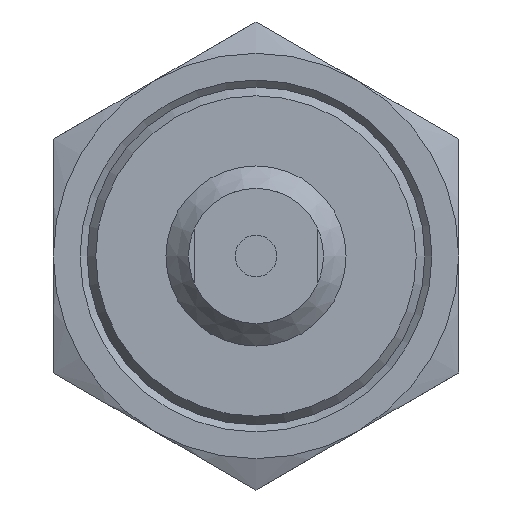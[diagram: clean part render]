
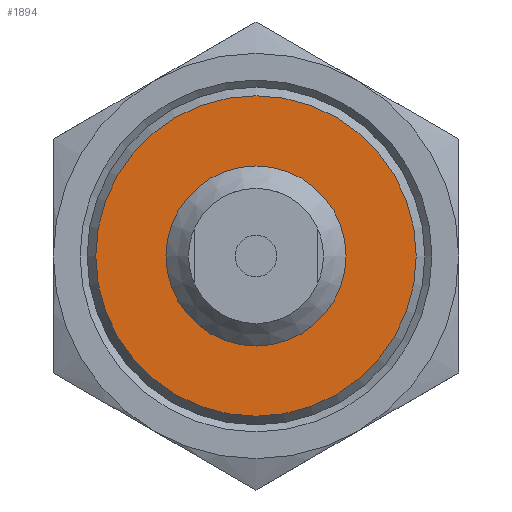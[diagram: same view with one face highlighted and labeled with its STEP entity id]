
A CAD part, front view. The second image highlights one B-rep face of the part: STEP entity #1894.
In plain terms, the highlighted planar face has unit normal (0, -1, 0).
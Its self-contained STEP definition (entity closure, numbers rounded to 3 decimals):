
#1860=CARTESIAN_POINT('',(-8.,15.,0.0));
#1861=VERTEX_POINT('',#1860);
#1862=CARTESIAN_POINT('',(0.,15.,0.0));
#1863=DIRECTION('',(0.0,1.0,0.0));
#1864=DIRECTION('',(-1.0,0.0,0.0));
#1865=AXIS2_PLACEMENT_3D('',#1862,#1863,#1864);
#1866=CIRCLE('',#1865,8.);
#1867=EDGE_CURVE('',#1861,#1861,#1866,.T.);
#1875=CARTESIAN_POINT('',(-11.117,15.,0.0));
#1876=DIRECTION('',(0.0,-1.0,0.0));
#1877=DIRECTION('',(0.0,0.0,-1.0));
#1878=AXIS2_PLACEMENT_3D('',#1875,#1876,#1877);
#1879=PLANE('',#1878);
#1880=CARTESIAN_POINT('',(-14.235,15.,0.0));
#1881=VERTEX_POINT('',#1880);
#1882=CARTESIAN_POINT('',(0.,15.,0.0));
#1883=DIRECTION('',(0.0,1.0,0.0));
#1884=DIRECTION('',(-1.0,0.0,0.0));
#1885=AXIS2_PLACEMENT_3D('',#1882,#1883,#1884);
#1886=CIRCLE('',#1885,14.235);
#1887=EDGE_CURVE('',#1881,#1881,#1886,.T.);
#1888=ORIENTED_EDGE('',*,*,#1887,.F.);
#1889=EDGE_LOOP('',(#1888));
#1890=FACE_OUTER_BOUND('',#1889,.T.);
#1891=ORIENTED_EDGE('',*,*,#1867,.T.);
#1892=EDGE_LOOP('',(#1891));
#1893=FACE_BOUND('',#1892,.T.);
#1894=ADVANCED_FACE('',(#1890,#1893),#1879,.T.);
